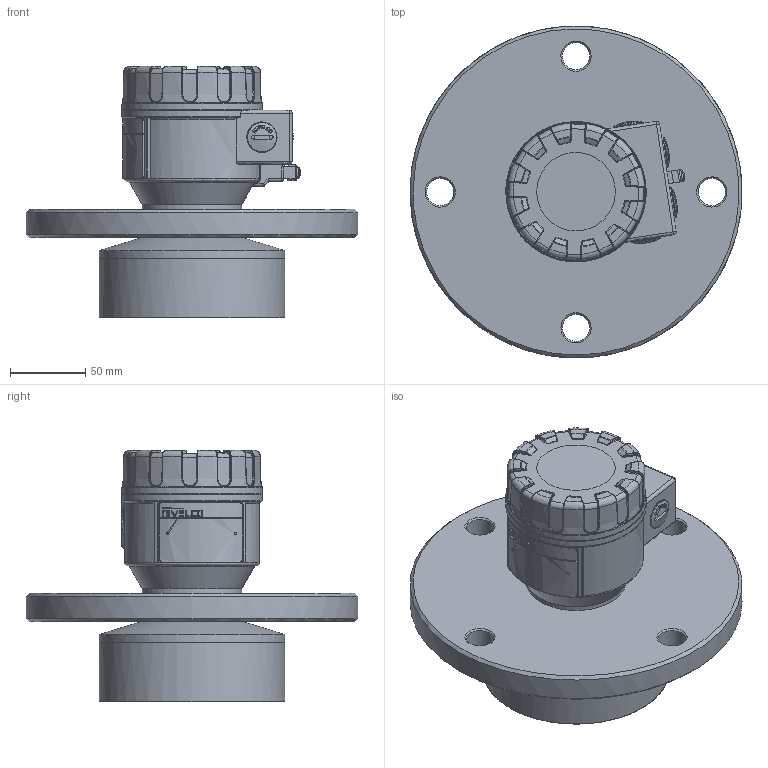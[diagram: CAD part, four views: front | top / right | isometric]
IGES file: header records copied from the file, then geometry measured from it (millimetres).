
Global section: file name: SI_340_Műház,2; native system: 2HAutodesk Inventor 2015; preprocessor: unknown; author: aantal; date: 20150306.113102; units: millimetre
Bounding box: 219.96 x 219.9 x 166.6 mm (x, y, z)
Volume: 1984893.2 mm3; surface area: 232377.1 mm2
Topology: 13 solids, 13 shells, 1262 faces, 3129 edges, 1929 vertices
Faces by surface type: bspline 1262
